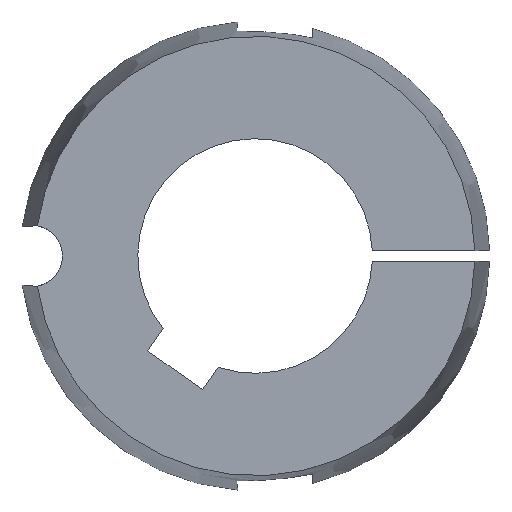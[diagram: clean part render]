
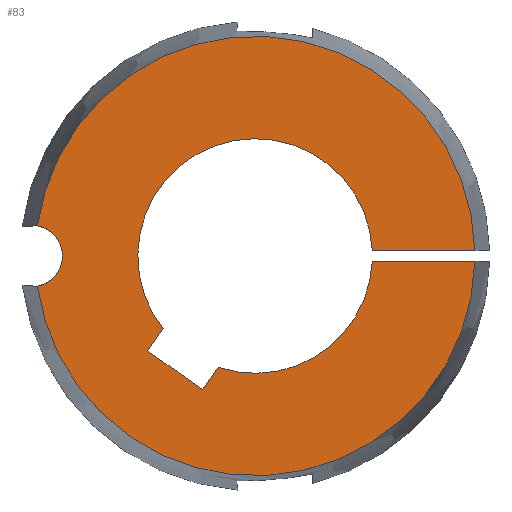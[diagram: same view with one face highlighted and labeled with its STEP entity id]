
A CAD part, left-side view. The second image highlights one B-rep face of the part: STEP entity #83.
In plain terms, the highlighted planar face has unit normal (-1, 0, 0).
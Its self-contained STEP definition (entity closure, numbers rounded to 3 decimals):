
#83 = ADVANCED_FACE( '', ( #108 ), #109, .F. );
#108 = FACE_OUTER_BOUND( '', #140, .T. );
#109 = PLANE( '', #141 );
#140 = EDGE_LOOP( '', ( #220, #221, #222, #223, #224, #225, #226, #227, #228, #229 ) );
#141 = AXIS2_PLACEMENT_3D( '', #230, #231, #232 );
#220 = ORIENTED_EDGE( '', *, *, #293, .T. );
#221 = ORIENTED_EDGE( '', *, *, #319, .F. );
#222 = ORIENTED_EDGE( '', *, *, #320, .T. );
#223 = ORIENTED_EDGE( '', *, *, #305, .T. );
#224 = ORIENTED_EDGE( '', *, *, #303, .T. );
#225 = ORIENTED_EDGE( '', *, *, #300, .T. );
#226 = ORIENTED_EDGE( '', *, *, #310, .T. );
#227 = ORIENTED_EDGE( '', *, *, #321, .T. );
#228 = ORIENTED_EDGE( '', *, *, #294, .T. );
#229 = ORIENTED_EDGE( '', *, *, #322, .F. );
#230 = CARTESIAN_POINT( '', ( -31.8, 0., 0. ) );
#231 = DIRECTION( '', ( 1., 0., 0. ) );
#232 = DIRECTION( '', ( 0., 0., -1. ) );
#293 = EDGE_CURVE( '', #334, #339, #341, .T. );
#294 = EDGE_CURVE( '', #342, #343, #344, .T. );
#300 = EDGE_CURVE( '', #355, #353, #356, .T. );
#303 = EDGE_CURVE( '', #360, #355, #361, .T. );
#305 = EDGE_CURVE( '', #363, #360, #364, .T. );
#310 = EDGE_CURVE( '', #353, #370, #372, .T. );
#319 = EDGE_CURVE( '', #386, #339, #387, .T. );
#320 = EDGE_CURVE( '', #386, #363, #388, .T. );
#321 = EDGE_CURVE( '', #370, #342, #389, .T. );
#322 = EDGE_CURVE( '', #334, #343, #390, .T. );
#334 = VERTEX_POINT( '', #433 );
#339 = VERTEX_POINT( '', #443 );
#341 = CIRCLE( '', #450, 4.6 );
#342 = VERTEX_POINT( '', #451 );
#343 = VERTEX_POINT( '', #452 );
#344 = LINE( '', #453, #454 );
#353 = VERTEX_POINT( '', #472 );
#355 = VERTEX_POINT( '', #475 );
#356 = LINE( '', #476, #477 );
#360 = VERTEX_POINT( '', #483 );
#361 = LINE( '', #484, #485 );
#363 = VERTEX_POINT( '', #488 );
#364 = CIRCLE( '', #489, 17.5 );
#370 = VERTEX_POINT( '', #497 );
#372 = LINE( '', #500, #501 );
#386 = VERTEX_POINT( '', #516 );
#387 = CIRCLE( '', #517, 32.776 );
#388 = LINE( '', #518, #519 );
#389 = CIRCLE( '', #520, 17.5 );
#390 = CIRCLE( '', #521, 32.776 );
#433 = CARTESIAN_POINT( '', ( -31.8, 32.464, 4.516 ) );
#443 = CARTESIAN_POINT( '', ( -31.8, 32.464, -4.516 ) );
#450 = AXIS2_PLACEMENT_3D( '', #584, #585, #586 );
#451 = CARTESIAN_POINT( '', ( -31.8, -17.484, 0.75 ) );
#452 = CARTESIAN_POINT( '', ( -31.8, -32.768, 0.75 ) );
#453 = CARTESIAN_POINT( '', ( -31.8, 0., 0.75 ) );
#454 = VECTOR( '', #587, 1000. );
#472 = CARTESIAN_POINT( '', ( -31.8, 16.026, -14.17 ) );
#475 = CARTESIAN_POINT( '', ( -31.8, 7.835, -19.906 ) );
#476 = CARTESIAN_POINT( '', ( -31.8, 7.835, -19.906 ) );
#477 = VECTOR( '', #592, 1000. );
#483 = CARTESIAN_POINT( '', ( -31.8, 5.523, -16.605 ) );
#484 = CARTESIAN_POINT( '', ( -31.8, 5.523, -16.605 ) );
#485 = VECTOR( '', #595, 1000. );
#488 = CARTESIAN_POINT( '', ( -31.8, -17.484, -0.75 ) );
#489 = AXIS2_PLACEMENT_3D( '', #597, #598, #599 );
#497 = CARTESIAN_POINT( '', ( -31.8, 13.715, -10.87 ) );
#500 = CARTESIAN_POINT( '', ( -31.8, 16.026, -14.17 ) );
#501 = VECTOR( '', #606, 1000. );
#516 = CARTESIAN_POINT( '', ( -31.8, -32.768, -0.75 ) );
#517 = AXIS2_PLACEMENT_3D( '', #629, #630, #631 );
#518 = CARTESIAN_POINT( '', ( -31.8, -35., -0.75 ) );
#519 = VECTOR( '', #632, 1000. );
#520 = AXIS2_PLACEMENT_3D( '', #633, #634, #635 );
#521 = AXIS2_PLACEMENT_3D( '', #636, #637, #638 );
#584 = CARTESIAN_POINT( '', ( -31.8, 33.34, 0. ) );
#585 = DIRECTION( '', ( 1., 0., 0. ) );
#586 = DIRECTION( '', ( 0., 1., 0. ) );
#587 = DIRECTION( '', ( 0., -1., 0. ) );
#592 = DIRECTION( '', ( 0., 0.819, 0.574 ) );
#595 = DIRECTION( '', ( 0., 0.574, -0.819 ) );
#597 = CARTESIAN_POINT( '', ( -31.8, 0., 0. ) );
#598 = DIRECTION( '', ( 1., 0., 0. ) );
#599 = DIRECTION( '', ( 0., 0., -1. ) );
#606 = DIRECTION( '', ( 0., -0.574, 0.819 ) );
#629 = CARTESIAN_POINT( '', ( -31.8, 0., 0. ) );
#630 = DIRECTION( '', ( 1., 0., 0. ) );
#631 = DIRECTION( '', ( 0., 0., -1. ) );
#632 = DIRECTION( '', ( 0., 1., 0. ) );
#633 = CARTESIAN_POINT( '', ( -31.8, 0., 0. ) );
#634 = DIRECTION( '', ( 1., 0., 0. ) );
#635 = DIRECTION( '', ( 0., 0., -1. ) );
#636 = CARTESIAN_POINT( '', ( -31.8, 0., 0. ) );
#637 = DIRECTION( '', ( 1., 0., 0. ) );
#638 = DIRECTION( '', ( 0., 0., -1. ) );
